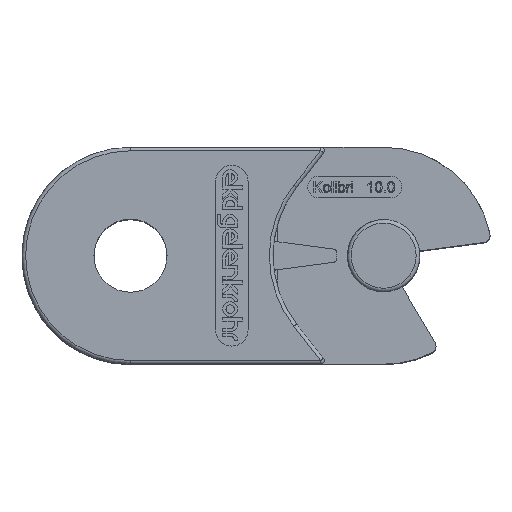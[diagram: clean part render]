
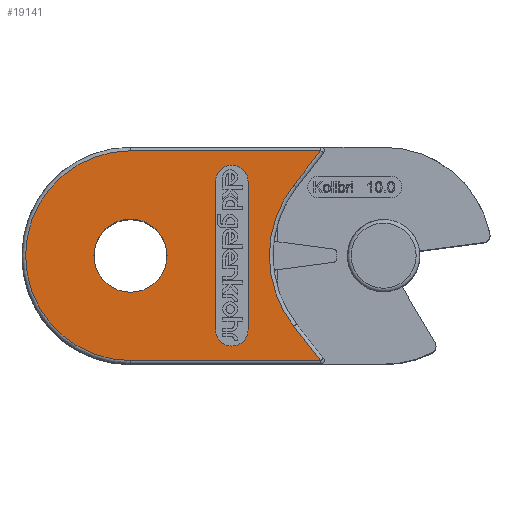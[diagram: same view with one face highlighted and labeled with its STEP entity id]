
A CAD part, top view. The second image highlights one B-rep face of the part: STEP entity #19141.
In plain terms, the highlighted planar face has unit normal (0, 0, 1).
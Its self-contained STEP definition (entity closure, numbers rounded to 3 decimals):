
#255=CARTESIAN_POINT('',(-12.45,0.,3.));
#256=VERTEX_POINT('',#255);
#257=CARTESIAN_POINT('',(-17.5,0.,3.));
#258=DIRECTION('',(0.0,0.0,-1.0));
#259=DIRECTION('',(-1.0,0.0,0.0));
#260=AXIS2_PLACEMENT_3D('',#257,#258,#259);
#261=CIRCLE('',#260,5.05);
#262=EDGE_CURVE('',#256,#256,#261,.T.);
#953=CARTESIAN_POINT('',(8.793,14.5,3.));
#954=VERTEX_POINT('',#953);
#978=CARTESIAN_POINT('',(8.793,-14.5,3.));
#979=VERTEX_POINT('',#978);
#1002=CARTESIAN_POINT('',(5.068,9.751,3.));
#1003=VERTEX_POINT('',#1002);
#1018=CARTESIAN_POINT('',(8.793,14.5,3.));
#1019=DIRECTION('',(-0.617,-0.787,0.0));
#1020=VECTOR('',#1019,6.035);
#1021=LINE('',#1018,#1020);
#1022=EDGE_CURVE('',#954,#1003,#1021,.T.);
#1034=CARTESIAN_POINT('',(5.068,-9.751,3.));
#1035=VERTEX_POINT('',#1034);
#1036=CARTESIAN_POINT('',(17.5,0.,3.));
#1037=DIRECTION('',(0.0,0.0,1.0));
#1038=DIRECTION('',(-1.,0.,0.0));
#1039=AXIS2_PLACEMENT_3D('',#1036,#1037,#1038);
#1040=CIRCLE('',#1039,15.8);
#1041=EDGE_CURVE('',#1003,#1035,#1040,.T.);
#1066=CARTESIAN_POINT('',(5.068,-9.751,3.));
#1067=DIRECTION('',(0.617,-0.787,0.0));
#1068=VECTOR('',#1067,6.035);
#1069=LINE('',#1066,#1068);
#1070=EDGE_CURVE('',#1035,#979,#1069,.T.);
#1080=CARTESIAN_POINT('',(-17.5,14.5,3.));
#1081=VERTEX_POINT('',#1080);
#1091=CARTESIAN_POINT('',(-17.5,14.5,3.));
#1092=DIRECTION('',(1.0,0.0,0.0));
#1093=VECTOR('',#1092,26.293);
#1094=LINE('',#1091,#1093);
#1095=EDGE_CURVE('',#1081,#954,#1094,.T.);
#1112=CARTESIAN_POINT('',(-17.5,-14.5,3.));
#1113=VERTEX_POINT('',#1112);
#1114=CARTESIAN_POINT('',(-17.5,0.,3.));
#1115=DIRECTION('',(0.0,0.0,-1.0));
#1116=DIRECTION('',(-1.0,0.0,0.0));
#1117=AXIS2_PLACEMENT_3D('',#1114,#1115,#1116);
#1118=CIRCLE('',#1117,14.5);
#1119=EDGE_CURVE('',#1113,#1081,#1118,.T.);
#1147=CARTESIAN_POINT('',(8.793,-14.5,3.));
#1148=DIRECTION('',(-1.0,0.0,0.0));
#1149=VECTOR('',#1148,26.293);
#1150=LINE('',#1147,#1149);
#1151=EDGE_CURVE('',#979,#1113,#1150,.T.);
#2238=CARTESIAN_POINT('',(-5.747,10.25,3.));
#2239=VERTEX_POINT('',#2238);
#2240=CARTESIAN_POINT('',(-1.247,10.25,3.));
#2241=VERTEX_POINT('',#2240);
#2242=CARTESIAN_POINT('',(-3.497,10.25,3.));
#2243=DIRECTION('',(0.0,0.0,-1.0));
#2244=DIRECTION('',(0.0,-1.0,0.0));
#2245=AXIS2_PLACEMENT_3D('',#2242,#2243,#2244);
#2246=CIRCLE('',#2245,2.25);
#2247=EDGE_CURVE('',#2239,#2241,#2246,.T.);
#2291=CARTESIAN_POINT('',(-5.747,-10.25,3.));
#2292=VERTEX_POINT('',#2291);
#2299=CARTESIAN_POINT('',(-1.247,-10.25,3.));
#2300=VERTEX_POINT('',#2299);
#2301=CARTESIAN_POINT('',(-3.497,-10.25,3.));
#2302=DIRECTION('',(0.0,0.0,-1.0));
#2303=DIRECTION('',(0.0,-1.0,0.0));
#2304=AXIS2_PLACEMENT_3D('',#2301,#2302,#2303);
#2305=CIRCLE('',#2304,2.25);
#2306=EDGE_CURVE('',#2300,#2292,#2305,.T.);
#18025=CARTESIAN_POINT('',(-1.247,10.25,3.));
#18026=DIRECTION('',(0.0,-1.0,0.0));
#18027=VECTOR('',#18026,20.5);
#18028=LINE('',#18025,#18027);
#18029=EDGE_CURVE('',#2241,#2300,#18028,.T.);
#18047=CARTESIAN_POINT('',(-5.747,-10.25,3.));
#18048=DIRECTION('',(0.0,1.0,0.0));
#18049=VECTOR('',#18048,20.5);
#18050=LINE('',#18047,#18049);
#18051=EDGE_CURVE('',#2292,#2239,#18050,.T.);
#19119=CARTESIAN_POINT('',(0.211,0.,3.));
#19120=DIRECTION('',(0.0,0.0,1.0));
#19121=DIRECTION('',(1.0,0.0,0.0));
#19122=AXIS2_PLACEMENT_3D('',#19119,#19120,#19121);
#19123=PLANE('',#19122);
#19124=ORIENTED_EDGE('',*,*,#1151,.F.);
#19125=ORIENTED_EDGE('',*,*,#1070,.F.);
#19126=ORIENTED_EDGE('',*,*,#1041,.F.);
#19127=ORIENTED_EDGE('',*,*,#1022,.F.);
#19128=ORIENTED_EDGE('',*,*,#1095,.F.);
#19129=ORIENTED_EDGE('',*,*,#1119,.F.);
#19130=EDGE_LOOP('',(#19124,#19125,#19126,#19127,#19128,#19129));
#19131=FACE_OUTER_BOUND('',#19130,.T.);
#19132=ORIENTED_EDGE('',*,*,#2306,.T.);
#19133=ORIENTED_EDGE('',*,*,#18051,.T.);
#19134=ORIENTED_EDGE('',*,*,#2247,.T.);
#19135=ORIENTED_EDGE('',*,*,#18029,.T.);
#19136=EDGE_LOOP('',(#19132,#19133,#19134,#19135));
#19137=FACE_BOUND('',#19136,.T.);
#19138=ORIENTED_EDGE('',*,*,#262,.T.);
#19139=EDGE_LOOP('',(#19138));
#19140=FACE_BOUND('',#19139,.T.);
#19141=ADVANCED_FACE('',(#19131,#19137,#19140),#19123,.T.);
